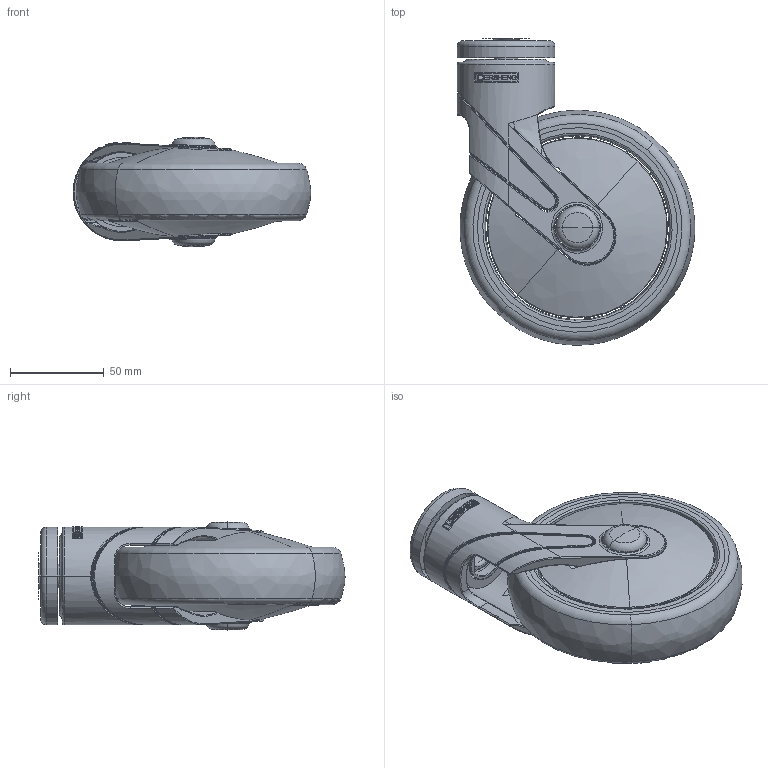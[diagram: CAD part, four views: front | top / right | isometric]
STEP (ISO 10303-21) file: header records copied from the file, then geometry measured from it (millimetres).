
FILE_DESCRIPTION((''),'2;1');
FILE_NAME('PRT0011','2025-08-13T14:15:29',('Administrator'),(''),'CREO PARAMETRIC BY PTC INC, 2022124','CREO PARAMETRIC BY PTC INC, 2022124','');
FILE_SCHEMA(('AUTOMOTIVE_DESIGN { 1 0 10303 214 1 1 1 1 }'));
Length unit declared in the file: millimetre
Products named in the file (1): PRT0011
Bounding box: 126.47 x 162.97 x 58.19 mm (x, y, z)
Surface area: 58398.1 mm2 (no closed solid volume)
Topology: 0 solids, 43 shells, 261 faces, 1543 edges, 1281 vertices
Faces by surface type: bspline 78, torus 69, cylinder 53, plane 51, sphere 4, cone 4, extrusion 2
Entity records: 25240 total; most frequent: CARTESIAN_POINT 13333, ORIENTED_EDGE 1933, DIRECTION 1606, EDGE_CURVE 1535, VERTEX_POINT 1281, B_SPLINE_CURVE_WITH_KNOTS 767, AXIS2_PLACEMENT_3D 640, CIRCLE 449
